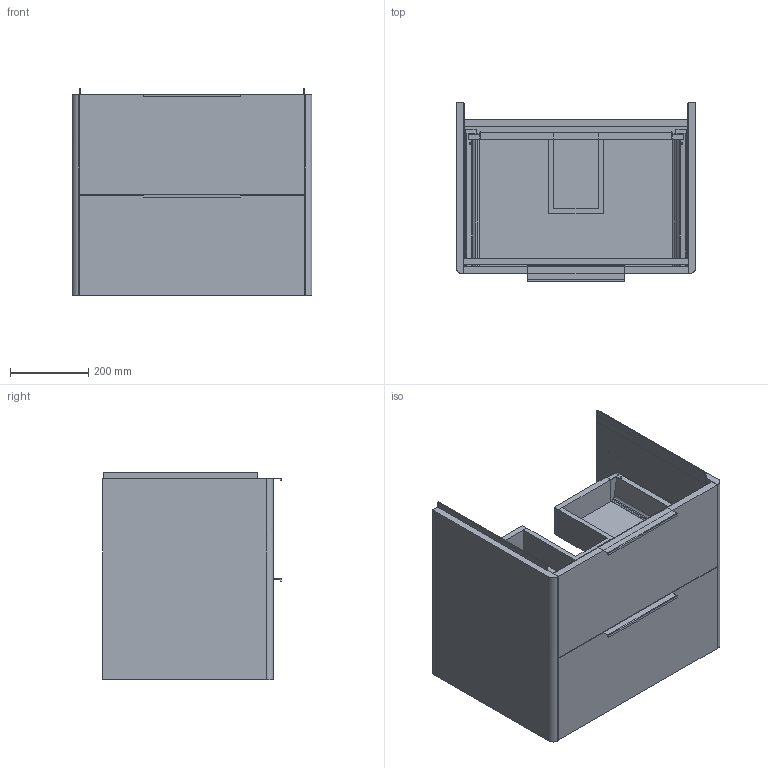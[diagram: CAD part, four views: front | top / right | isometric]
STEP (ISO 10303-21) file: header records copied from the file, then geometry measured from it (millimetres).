
FILE_DESCRIPTION(/* description */ (''),/* implementation_level */ '2;1');
FILE_NAME(/* name */ '3DC18D~1',/* time_stamp */ '2018-05-07T13:10:15+02:00',/* author */ (''),/* organization */ (''),/* preprocessor_version */ 'ST-DEVELOPER v15',/* originating_system */ '',/* authorisation */ '');
FILE_SCHEMA (('AUTOMOTIVE_DESIGN'));
Length unit declared in the file: millimetre
Products named in the file (23): Document; 350-84_MIR2; 350-84_1_MIR2; 350-84_2_MIR2; 350-84_3_MIR2; 350-84; 350-84_1; 350-84_2; 350-84_3; maniglia inferiore; Maniglia superiore; Frontale cassetto inferiore; Retro_cassetto inferiore; Fascia rialzo; Retro cassetto superiore; Fondo cassetto inferiore; Fondo cassetto superiore; Fondo mobile; Fianco dx; Fianco sx; Catena inferiore; Frontale cassetto superiore; Catena_superiore
Assembly tree (24 placements, depth 3):
  Document
    350-84_MIR2  x2
      350-84_1_MIR2
      350-84_2_MIR2
      350-84_3_MIR2
    350-84  x2
      350-84_1
      350-84_2
      350-84_3
    maniglia inferiore
    Maniglia superiore
    Frontale cassetto inferiore
    Retro_cassetto inferiore
    Fascia rialzo
    Retro cassetto superiore
    Fondo cassetto inferiore
    Fondo cassetto superiore
    Fondo mobile
    Fianco dx
    Fianco sx
    Catena inferiore
    Frontale cassetto superiore
    Catena_superiore
Bounding box: 615 x 458.1 x 531 mm (x, y, z)
Volume: 27993296.5 mm3; surface area: 4118810.8 mm2
Topology: 28 solids, 28 shells, 1055 faces, 3161 edges, 2198 vertices
Faces by surface type: plane 776, bspline 279
Entity records: 19884 total; most frequent: CARTESIAN_POINT 7915, ORIENTED_EDGE 3490, EDGE_CURVE 1745, B_SPLINE_CURVE_WITH_KNOTS 1287, VERTEX_POINT 1214, EDGE_LOOP 695, ADVANCED_FACE 597, FACE_OUTER_BOUND 597
